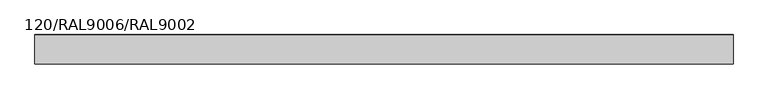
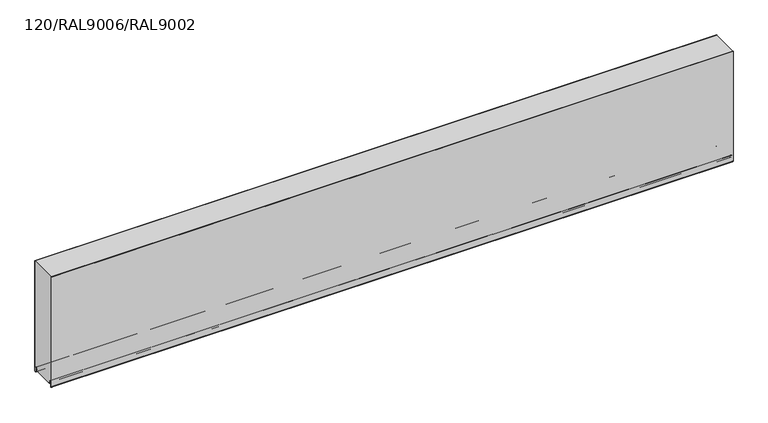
"""IFC4 building model written with IfcOpenShell, lengths in millimetres: plate geometry, TR_C_H_FTV_Panel_cut_GROOVE : 120/RAL9006/RAL9002."""

from ifc_helpers import new_model, si_unit, point, frame, frame_2d, origin, place, context, project, spatial, polyline, circle_curve, trimmed, segment, composite_curve, outline, extrude, source, transform, mapped, element, save


def plate_120_ral9006_ral9002_99097967(model_context):
    return source(origin(), model_context, "Body", "SweptSolid", [
        extrude(outline(composite_curve([segment(polyline([(-0.8, 14.4000012), (-9.45, 14.4000012)]), True, "CONTINUOUS"), segment(trimmed(circle_curve(frame_2d((-9.45, 10.1500012)), 4.25), [point((-9.45, 14.4000012))], [point((-13.635433, 10.8880059))], True, "CARTESIAN"), True, "CONTINUOUS"), segment(polyline([(-13.635433, 10.8880059), (-14.7022582, 4.837739)]), True, "CONTINUOUS"), segment(trimmed(circle_curve(frame_2d((-17.6074411, 5.3500012)), 2.95), [point((-14.7022582, 4.837739))], [point((-17.6074411, 2.4000012))], False, "CARTESIAN"), True, "CONTINUOUS"), segment(polyline([(-17.6074411, 2.4000012), (-23.7, 2.4000012), (-23.7, 1.2e-06), (-96.3, 1.2e-06), (-96.3, 2.4000012), (-102.3925589, 2.4000012)]), True, "CONTINUOUS"), segment(trimmed(circle_curve(frame_2d((-102.3925589, 5.3500012)), 2.95), [point((-102.3925589, 2.4000012))], [point((-105.2977418, 4.837739))], False, "CARTESIAN"), True, "CONTINUOUS"), segment(polyline([(-105.2977418, 4.837739), (-106.364567, 10.8880059)]), True, "CONTINUOUS"), segment(trimmed(circle_curve(frame_2d((-110.55, 10.1500012)), 4.25), [point((-106.364567, 10.8880059))], [point((-110.55, 14.4000012))], True, "CARTESIAN"), True, "CONTINUOUS"), segment(polyline([(-110.55, 14.4000012), (-119.2, 14.4000012), (-119.2, 480.0), (-0.8, 480.0), (-0.8, 14.4000012)]), True, "CONTINUOUS")], self_intersect=False)), frame((-1370.0, 0.0, 0.0), z_axis=(1.0, 0.0, 0.0), x_axis=(0.0, 1.0, 0.0)), (0.0, 0.0, 1.0), 2850.0),
        extrude(outline(composite_curve([segment(polyline([(-21.0, 2.4000012), (-17.6074411, 2.4000012)]), True, "CONTINUOUS"), segment(trimmed(circle_curve(frame_2d((-17.6074411, 5.3500012)), 2.95), [point((-17.6074411, 2.4000012))], [point((-14.7022582, 4.837739))], True, "CARTESIAN"), True, "CONTINUOUS"), segment(polyline([(-14.7022582, 4.837739), (-13.635433, 10.8880059)]), True, "CONTINUOUS"), segment(trimmed(circle_curve(frame_2d((-9.45, 10.1500012)), 4.25), [point((-13.635433, 10.8880059))], [point((-5.2, 10.1500012))], False, "CARTESIAN"), True, "CONTINUOUS"), segment(polyline([(-5.2, 10.1500012), (-5.2, -7.4499988)]), True, "CONTINUOUS"), segment(trimmed(circle_curve(frame_2d((-4.05, -7.4499988)), 1.15), [point((-5.2, -7.4499988))], [point((-3.2368272, -8.2631716))], True, "CARTESIAN"), True, "CONTINUOUS"), segment(polyline([(-3.2368272, -8.2631716), (-1.3711418, -6.3974862)]), True, "CONTINUOUS"), segment(trimmed(circle_curve(frame_2d((-2.75, -5.018628)), 1.95), [point((-1.3711418, -6.3974862))], [point((-0.8, -5.018628))], True, "CARTESIAN"), True, "CONTINUOUS"), segment(polyline([(-0.8, -5.018628), (-0.8, 480.0), (0.0, 480.0), (0.0, -5.018628)]), True, "CONTINUOUS"), segment(trimmed(circle_curve(frame_2d((-2.75, -5.018628)), 2.75), [point((0.0, -5.018628))], [point((-0.8054564, -6.9631716))], False, "CARTESIAN"), True, "CONTINUOUS"), segment(polyline([(-0.8054564, -6.9631716), (-2.6711418, -8.8288571)]), True, "CONTINUOUS"), segment(trimmed(circle_curve(frame_2d((-4.05, -7.4499988)), 1.95), [point((-2.6711418, -8.8288571))], [point((-6.0, -7.4499988))], False, "CARTESIAN"), True, "CONTINUOUS"), segment(polyline([(-6.0, -7.4499988), (-6.0, 10.1500012)]), True, "CONTINUOUS"), segment(trimmed(circle_curve(frame_2d((-9.45, 10.1500012)), 3.45), [point((-6.0, 10.1500012))], [point((-12.8475867, 10.7490874))], True, "CARTESIAN"), True, "CONTINUOUS"), segment(polyline([(-12.8475867, 10.7490874), (-13.914412, 4.6988205)]), True, "CONTINUOUS"), segment(trimmed(circle_curve(frame_2d((-17.6074411, 5.3500012)), 3.75), [point((-13.914412, 4.6988205))], [point((-17.6074411, 1.6000012))], False, "CARTESIAN"), True, "CONTINUOUS"), segment(polyline([(-17.6074411, 1.6000012), (-21.0, 1.6000012), (-21.0, 2.4000012)]), True, "CONTINUOUS")], self_intersect=False)), frame((-1370.0, 0.0, 0.0), z_axis=(1.0, 0.0, 0.0), x_axis=(0.0, 1.0, 0.0)), (0.0, 0.0, 1.0), 2850.0),
        extrude(outline(composite_curve([segment(trimmed(circle_curve(frame_2d((-117.25, -5.018628)), 1.95), [point((-119.2, -5.018628))], [point((-118.6288582, -6.3974862))], True, "CARTESIAN"), True, "CONTINUOUS"), segment(polyline([(-118.6288582, -6.3974862), (-116.7631728, -8.2631716)]), True, "CONTINUOUS"), segment(trimmed(circle_curve(frame_2d((-115.95, -7.4499988)), 1.15), [point((-116.7631728, -8.2631716))], [point((-114.8, -7.4499988))], True, "CARTESIAN"), True, "CONTINUOUS"), segment(polyline([(-114.8, -7.4499988), (-114.8, 10.1500012)]), True, "CONTINUOUS"), segment(trimmed(circle_curve(frame_2d((-110.55, 10.1500012)), 4.25), [point((-114.8, 10.1500012))], [point((-106.364567, 10.8880059))], False, "CARTESIAN"), True, "CONTINUOUS"), segment(polyline([(-106.364567, 10.8880059), (-105.2977418, 4.837739)]), True, "CONTINUOUS"), segment(trimmed(circle_curve(frame_2d((-102.3925589, 5.3500012)), 2.95), [point((-105.2977418, 4.837739))], [point((-102.3925589, 2.4000012))], True, "CARTESIAN"), True, "CONTINUOUS"), segment(polyline([(-102.3925589, 2.4000012), (-99.0, 2.4000012), (-99.0, 1.6000012), (-102.3925589, 1.6000012)]), True, "CONTINUOUS"), segment(trimmed(circle_curve(frame_2d((-102.3925589, 5.3500012)), 3.75), [point((-102.3925589, 1.6000012))], [point((-106.085588, 4.6988205))], False, "CARTESIAN"), True, "CONTINUOUS"), segment(polyline([(-106.085588, 4.6988205), (-107.1524133, 10.7490874)]), True, "CONTINUOUS"), segment(trimmed(circle_curve(frame_2d((-110.55, 10.1500012)), 3.45), [point((-107.1524133, 10.7490874))], [point((-114.0, 10.1500012))], True, "CARTESIAN"), True, "CONTINUOUS"), segment(polyline([(-114.0, 10.1500012), (-114.0, -7.4499988)]), True, "CONTINUOUS"), segment(trimmed(circle_curve(frame_2d((-115.95, -7.4499988)), 1.95), [point((-114.0, -7.4499988))], [point((-117.3288582, -8.8288571))], False, "CARTESIAN"), True, "CONTINUOUS"), segment(polyline([(-117.3288582, -8.8288571), (-119.1945436, -6.9631716)]), True, "CONTINUOUS"), segment(trimmed(circle_curve(frame_2d((-117.25, -5.018628)), 2.75), [point((-119.1945436, -6.9631716))], [point((-120.0, -5.018628))], False, "CARTESIAN"), True, "CONTINUOUS"), segment(polyline([(-120.0, -5.018628), (-120.0, 480.0), (-119.2, 480.0), (-119.2, -5.018628)]), True, "CONTINUOUS")], self_intersect=False)), frame((-1370.0, 0.0, 0.0), z_axis=(1.0, 0.0, 0.0), x_axis=(0.0, 1.0, 0.0)), (0.0, 0.0, 1.0), 2850.0),
    ])


if __name__ == "__main__":
    model = new_model("IFC4")
    model_context = context("Model", 3, world=origin())
    ifc_project = project(units=[si_unit("LENGTHUNIT", "METRE", prefix="MILLI")], contexts=[model_context])
    site = spatial("IfcSite", under=ifc_project)
    building = spatial("IfcBuilding", under=site)
    placement = place(None, origin())
    plate_120_ral9006_ral9002_shape = plate_120_ral9006_ral9002_99097967(model_context)
    element("IfcPlate", 1, ObjectType="TR_C_H_FTV_Panel_cut_GROOVE : 120/RAL9006/RAL9002", at=placement, inside=building, context=model_context, shape_type="MappedRepresentation", body=[
        mapped(plate_120_ral9006_ral9002_shape, transform((0.0, 0.0, 0.0), x_axis=(1.0, 0.0, 0.0), y_axis=(0.0, 1.0, 0.0), z_axis=(0.0, 0.0, 1.0))),
    ])
    save(model, "model.ifc")
